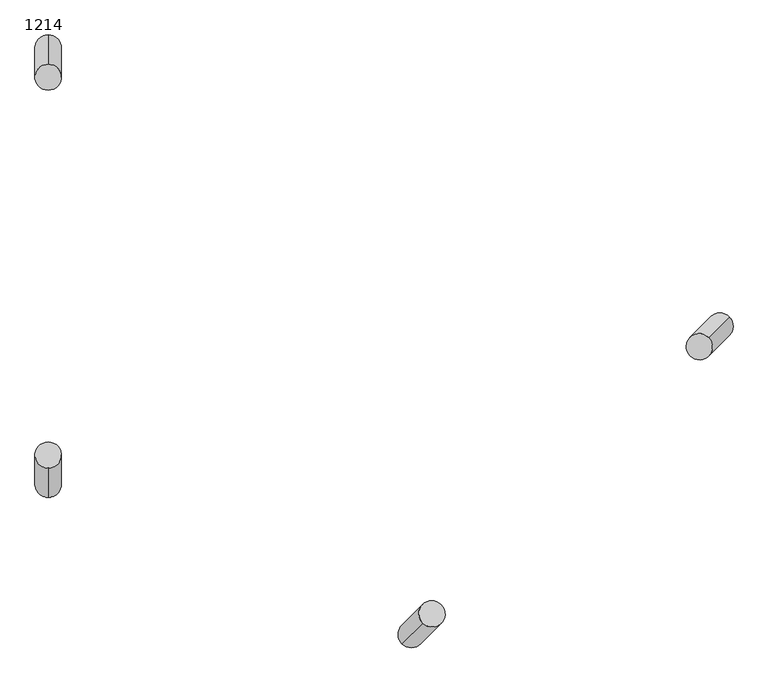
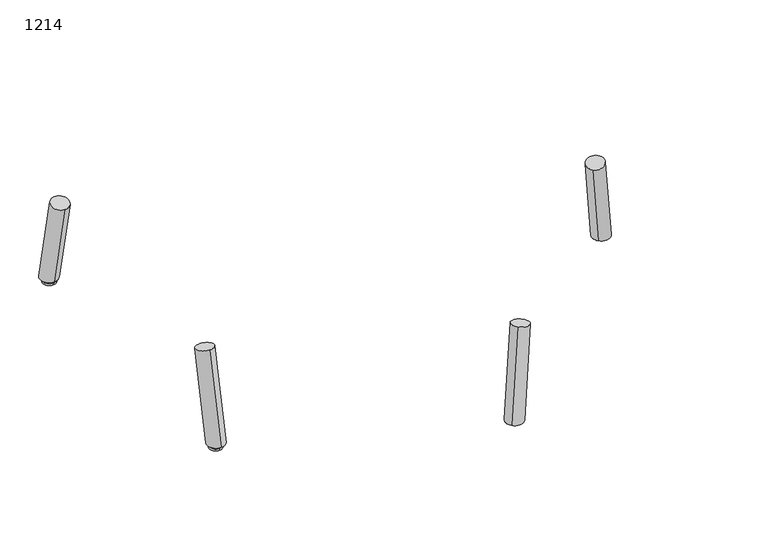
"""IFC4 building model written with IfcOpenShell, lengths in millimetres: furniture geometry, Laguna-Modular-Inside_Curve-ERG : 1214."""

from ifc_helpers import new_model, si_unit, frame, origin, place, context, project, spatial, circle_curve, ellipse_curve, source, transform, mapped, element, save
from ifc_brep_helpers import plane_surface, cylinder_surface, advanced_brep


def furniture_1214_cdc57468(model_context):
    return source(origin(), model_context, "Body", "AdvancedBrep", [
        advanced_brep(
        [(-4769.4056322, 1441.6208563, 10.16), (-4769.4056322, 1433.13476, 10.16), (-4769.4056322, 1437.3778081, 10.16), (-4769.4056322, 1437.3778081, 0.0), (-4769.4056322, 1423.2994547, 0.0), (-4769.4056322, 1451.4561616, 0.0), (-4769.4056322, 1423.2994547, 3.9615026), (-4769.4056322, 1451.4561616, 3.9615026), (-4769.4056322, 1433.13476, 3.9615026), (-4769.4056322, 1441.6208563, 3.9615026)],
        [
            (0, 1, circle_curve(frame((-4769.4056322, 1437.3778081, 10.16), z_axis=(0.0, 0.0, 1.0), x_axis=(0.0, -1.0, 0.0)), 4.2430482)),
            (1, 2),
            (2, 0),
            (1, 0, circle_curve(frame((-4769.4056322, 1437.3778081, 10.16), z_axis=(0.0, 0.0, 1.0), x_axis=(0.0, -1.0, 0.0)), 4.2430482)),
            (3, 4),
            (4, 5, circle_curve(frame((-4769.4056322, 1437.3778081, 0.0), z_axis=(0.0, 0.0, -1.0), x_axis=(0.0, -1.0, 0.0)), 14.0783534)),
            (5, 3),
            (5, 4, circle_curve(frame((-4769.4056322, 1437.3778081, 0.0), z_axis=(0.0, 0.0, -1.0), x_axis=(0.0, -1.0, 0.0)), 14.0783534)),
            (4, 6),
            (6, 7, circle_curve(frame((-4769.4056322, 1437.3778081, 3.9615026), z_axis=(0.0, 0.0, -1.0), x_axis=(0.0, -1.0, 0.0)), 14.0783534)),
            (7, 5),
            (7, 6, circle_curve(frame((-4769.4056322, 1437.3778081, 3.9615026), z_axis=(0.0, 0.0, -1.0), x_axis=(0.0, -1.0, 0.0)), 14.0783534)),
            (6, 8),
            (8, 9, circle_curve(frame((-4769.4056322, 1437.3778081, 3.9615026), z_axis=(0.0, 0.0, -1.0), x_axis=(0.0, -1.0, 0.0)), 4.2430482)),
            (9, 7),
            (9, 8, circle_curve(frame((-4769.4056322, 1437.3778081, 3.9615026), z_axis=(0.0, 0.0, -1.0), x_axis=(0.0, -1.0, 0.0)), 4.2430482)),
            (8, 1),
            (0, 9),
        ],
        [
            plane_surface(frame((-4769.4056322, 1437.3778081, 10.16), z_axis=(0.0, 0.0, 1.0), x_axis=(0.0, -1.0, 0.0))),
            plane_surface(frame((-4769.4056322, 1437.3778081, 0.0), z_axis=(0.0, 0.0, -1.0), x_axis=(0.0, -1.0, 0.0))),
            cylinder_surface(frame((-4769.4056322, 1437.3778081, 10.16), z_axis=(0.0, 0.0, -1.0), x_axis=(0.0, -1.0, 0.0)), 14.0783534),
            plane_surface(frame((-4769.4056322, 1437.3778081, 3.9615026), z_axis=(0.0, 0.0, 1.0), x_axis=(0.0, -1.0, 0.0))),
            cylinder_surface(frame((-4769.4056322, 1437.3778081, 10.16), z_axis=(0.0, 0.0, -1.0), x_axis=(0.0, -1.0, 0.0)), 4.2430482),
        ],
        [
            (0, [[1, 2, 3]]),
            (0, [[4, -3, -2]]),
            (1, [[5, 6, 7]]),
            (1, [[-7, 8, -5]]),
            (2, [[-6, 9, 10, 11]]),
            (2, [[-8, -11, 12, -9]]),
            (3, [[-10, 13, 14, 15]]),
            (3, [[-12, -15, 16, -13]]),
            (4, [[-14, 17, -1, 18]]),
            (4, [[-16, -18, -4, -17]]),
        ],
    ),
        advanced_brep(
        [(-4769.4056322, 814.5485049, 10.16), (-4769.4056322, 818.7915531, 10.16), (-4769.4056322, 810.3054568, 10.16), (-4769.4056322, 800.4701515, 0.0), (-4769.4056322, 828.6268583, 0.0), (-4769.4056322, 814.5485049, 0.0), (-4769.4056322, 800.4701515, 3.9615026), (-4769.4056322, 828.6268583, 3.9615026), (-4769.4056322, 810.3054568, 3.9615026), (-4769.4056322, 818.7915531, 3.9615026)],
        [
            (0, 1),
            (1, 2, circle_curve(frame((-4769.4056322, 814.5485049, 10.16), z_axis=(0.0, 0.0, 1.0), x_axis=(0.0, 1.0, 0.0)), 4.2430482)),
            (2, 0),
            (2, 1, circle_curve(frame((-4769.4056322, 814.5485049, 10.16), z_axis=(0.0, 0.0, 1.0), x_axis=(0.0, 1.0, 0.0)), 4.2430482)),
            (3, 4, circle_curve(frame((-4769.4056322, 814.5485049, 0.0), z_axis=(0.0, 0.0, -1.0), x_axis=(0.0, 1.0, 0.0)), 14.0783534)),
            (4, 5),
            (5, 3),
            (4, 3, circle_curve(frame((-4769.4056322, 814.5485049, 0.0), z_axis=(0.0, 0.0, -1.0), x_axis=(0.0, 1.0, 0.0)), 14.0783534)),
            (6, 7, circle_curve(frame((-4769.4056322, 814.5485049, 3.9615026), z_axis=(0.0, 0.0, -1.0), x_axis=(0.0, 1.0, 0.0)), 14.0783534)),
            (7, 4),
            (3, 6),
            (7, 6, circle_curve(frame((-4769.4056322, 814.5485049, 3.9615026), z_axis=(0.0, 0.0, -1.0), x_axis=(0.0, 1.0, 0.0)), 14.0783534)),
            (8, 9, circle_curve(frame((-4769.4056322, 814.5485049, 3.9615026), z_axis=(0.0, 0.0, -1.0), x_axis=(0.0, 1.0, 0.0)), 4.2430482)),
            (9, 7),
            (6, 8),
            (9, 8, circle_curve(frame((-4769.4056322, 814.5485049, 3.9615026), z_axis=(0.0, 0.0, -1.0), x_axis=(0.0, 1.0, 0.0)), 4.2430482)),
            (1, 9),
            (8, 2),
        ],
        [
            plane_surface(frame((-4769.4056322, 814.5485049, 10.16), z_axis=(0.0, 0.0, 1.0), x_axis=(0.0, 1.0, 0.0))),
            plane_surface(frame((-4769.4056322, 814.5485049, 0.0), z_axis=(0.0, 0.0, -1.0), x_axis=(0.0, 1.0, 0.0))),
            cylinder_surface(frame((-4769.4056322, 814.5485049, 10.16), z_axis=(0.0, 0.0, 1.0), x_axis=(0.0, 1.0, 0.0)), 14.0783534),
            plane_surface(frame((-4769.4056322, 814.5485049, 3.9615026), z_axis=(0.0, 0.0, 1.0), x_axis=(0.0, 1.0, 0.0))),
            cylinder_surface(frame((-4769.4056322, 814.5485049, 10.16), z_axis=(0.0, 0.0, 1.0), x_axis=(0.0, 1.0, 0.0)), 4.2430482),
        ],
        [
            (0, [[1, 2, 3]]),
            (0, [[-3, 4, -1]]),
            (1, [[5, 6, 7]]),
            (1, [[8, -7, -6]]),
            (2, [[9, 10, -5, 11]]),
            (2, [[12, -11, -8, -10]]),
            (3, [[13, 14, -9, 15]]),
            (3, [[16, -15, -12, -14]]),
            (4, [[-2, 17, -13, 18]]),
            (4, [[-4, -18, -16, -17]]),
        ],
    ),
        advanced_brep(
        [(-4769.4056322, 1415.8454177, 207.1767944), (-4769.4056322, 1378.584843, 199.2232056), (-4769.4056322, 1457.9003393, 10.16), (-4769.4056322, 1418.942003, 10.16)],
        [
            (0, 1, circle_curve(frame((-4769.4056322, 1397.2151303, 203.2), z_axis=(0.0, -0.20875560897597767, 0.977967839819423), x_axis=(0.0, -0.977967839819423, -0.20875560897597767)), 19.05)),
            (1, 0, circle_curve(frame((-4769.4056322, 1397.2151303, 203.2), z_axis=(0.0, -0.20875560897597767, 0.977967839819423), x_axis=(0.0, -0.977967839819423, -0.20875560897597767)), 19.05)),
            (0, 2),
            (2, 3, ellipse_curve(frame((-4769.4056322, 1438.4211712, 10.16), z_axis=(0.0, 0.0, 1.0), x_axis=(0.0, -1.0, 0.0)), 19.4791682, 19.05)),
            (3, 1),
            (3, 2, ellipse_curve(frame((-4769.4056322, 1438.4211712, 10.16), z_axis=(0.0, 0.0, 1.0), x_axis=(0.0, -1.0, 0.0)), 19.4791682, 19.05)),
        ],
        [
            plane_surface(frame((-4769.4056322, 1397.2151303, 203.2), z_axis=(0.0, -0.20875560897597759, 0.977967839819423), x_axis=(-1.0, 0.0, 0.0))),
            cylinder_surface(frame((-4769.4056322, 1397.2151303, 203.2), z_axis=(0.0, -0.20875560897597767, 0.977967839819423), x_axis=(0.0, -0.977967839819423, -0.20875560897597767)), 19.05),
            plane_surface(frame((-3404.1553779, 1460.7151303, 10.16), z_axis=(0.0, 0.0, -1.0), x_axis=(-1.0, 0.0, 0.0))),
        ],
        [
            (0, [[1, 2]]),
            (1, [[-1, 3, 4, 5]]),
            (1, [[-2, -5, 6, -3]]),
            (2, [[-4, -6]]),
        ],
    ),
        advanced_brep(
        [(-4769.4056322, 873.8900017, 199.2232056), (-4769.4056322, 836.629427, 207.1767944), (-4769.4056322, 833.5328417, 10.16), (-4769.4056322, 794.5745054, 10.16)],
        [
            (0, 1, circle_curve(frame((-4769.4056322, 855.2597144, 203.2), z_axis=(0.0, 0.20875560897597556, 0.9779678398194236), x_axis=(0.0, -0.9779678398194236, 0.20875560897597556)), 19.05)),
            (1, 0, circle_curve(frame((-4769.4056322, 855.2597144, 203.2), z_axis=(0.0, 0.20875560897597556, 0.9779678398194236), x_axis=(0.0, -0.9779678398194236, 0.20875560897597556)), 19.05)),
            (0, 2),
            (2, 3, ellipse_curve(frame((-4769.4056322, 814.0536735, 10.16), z_axis=(0.0, 0.0, 1.0), x_axis=(0.0, 0.9999999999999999, 0.0)), 19.4791682, 19.05)),
            (3, 1),
            (3, 2, ellipse_curve(frame((-4769.4056322, 814.0536735, 10.16), z_axis=(0.0, 0.0, 1.0), x_axis=(0.0, 0.9999999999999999, 0.0)), 19.4791682, 19.05)),
        ],
        [
            plane_surface(frame((-4769.4056322, 855.2597144, 203.2), z_axis=(0.0, 0.2087556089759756, 0.9779678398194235), x_axis=(-1.0, 0.0, 0.0))),
            cylinder_surface(frame((-4769.4056322, 855.2597144, 203.2), z_axis=(0.0, 0.20875560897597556, 0.9779678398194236), x_axis=(0.0, -0.9779678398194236, 0.20875560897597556)), 19.05),
            plane_surface(frame((-3404.1553779, 1460.7151303, 10.16), z_axis=(0.0, 0.0, -1.0), x_axis=(-1.0, 0.0, 0.0))),
        ],
        [
            (0, [[1, 2]]),
            (1, [[-1, 3, 4, 5]]),
            (1, [[-2, -5, 6, -3]]),
            (2, [[-4, -6]]),
        ],
    ),
        advanced_brep(
        [(-3823.0856257, 1023.8668366, 207.1767944), (-3849.4328307, 997.5196316, 199.2232056), (-3793.3483054, 1053.6041569, 10.16), (-3820.8960092, 1026.0564531, 10.16)],
        [
            (0, 1, circle_curve(frame((-3836.2592282, 1010.6932341, 203.2), z_axis=(-0.1476125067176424, -0.14761250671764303, 0.9779678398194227), x_axis=(-0.691527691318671, -0.6915276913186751, -0.20875560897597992)), 19.05)),
            (1, 0, circle_curve(frame((-3836.2592282, 1010.6932341, 203.2), z_axis=(-0.1476125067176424, -0.14761250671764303, 0.9779678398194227), x_axis=(-0.691527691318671, -0.6915276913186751, -0.20875560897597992)), 19.05)),
            (0, 2),
            (2, 3, ellipse_curve(frame((-3807.1221573, 1039.830305, 10.16), z_axis=(0.0, 0.0, 1.0), x_axis=(-0.707106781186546, -0.7071067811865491, 0.0)), 19.4791682, 19.05)),
            (3, 1),
            (3, 2, ellipse_curve(frame((-3807.1221573, 1039.830305, 10.16), z_axis=(0.0, 0.0, 1.0), x_axis=(-0.707106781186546, -0.7071067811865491, 0.0)), 19.4791682, 19.05)),
        ],
        [
            plane_surface(frame((-3836.2592282, 1010.6932341, 203.2), z_axis=(-0.14761250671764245, -0.1476125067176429, 0.9779678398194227), x_axis=(-0.7071067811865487, 0.7071067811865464, 0.0))),
            cylinder_surface(frame((-3836.2592282, 1010.6932341, 203.2), z_axis=(-0.1476125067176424, -0.14761250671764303, 0.9779678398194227), x_axis=(-0.691527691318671, -0.6915276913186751, -0.20875560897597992)), 19.05),
            plane_surface(frame((-3404.1553779, 1460.7151303, 10.16), z_axis=(0.0, 0.0, -1.0), x_axis=(-1.0, 0.0, 0.0))),
        ],
        [
            (0, [[1, 2]]),
            (1, [[-1, 3, 4, 5]]),
            (1, [[-2, -5, 6, -3]]),
            (2, [[-4, -6]]),
        ],
    ),
        advanced_brep(
        [(-4206.3059754, 640.6464869, 199.2232056), (-4232.6531805, 614.2992819, 207.1767944), (-4234.842797, 612.1096654, 10.16), (-4262.3905008, 584.5619616, 10.16)],
        [
            (0, 1, circle_curve(frame((-4219.479578, 627.4728844, 203.2), z_axis=(0.1476125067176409, 0.14761250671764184, 0.9779678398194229), x_axis=(-0.691527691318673, -0.6915276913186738, 0.20875560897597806)), 19.05)),
            (1, 0, circle_curve(frame((-4219.479578, 627.4728844, 203.2), z_axis=(0.1476125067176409, 0.14761250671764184, 0.9779678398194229), x_axis=(-0.691527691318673, -0.6915276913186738, 0.20875560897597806)), 19.05)),
            (0, 2),
            (2, 3, ellipse_curve(frame((-4248.6166489, 598.3358135, 10.16), z_axis=(0.0, 0.0, 1.0), x_axis=(0.7071067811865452, 0.7071067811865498, 0.0)), 19.4791682, 19.05)),
            (3, 1),
            (3, 2, ellipse_curve(frame((-4248.6166489, 598.3358135, 10.16), z_axis=(0.0, 0.0, 1.0), x_axis=(0.7071067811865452, 0.7071067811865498, 0.0)), 19.4791682, 19.05)),
        ],
        [
            plane_surface(frame((-4219.479578, 627.4728844, 203.2), z_axis=(0.14761250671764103, 0.14761250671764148, 0.9779678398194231), x_axis=(-0.7071067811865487, 0.7071067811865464, 0.0))),
            cylinder_surface(frame((-4219.479578, 627.4728844, 203.2), z_axis=(0.14761250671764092, 0.14761250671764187, 0.9779678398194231), x_axis=(-0.691527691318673, -0.6915276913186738, 0.20875560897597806)), 19.05),
            plane_surface(frame((-3404.1553779, 1460.7151303, 10.16), z_axis=(0.0, 0.0, -1.0), x_axis=(-1.0, 0.0, 0.0))),
        ],
        [
            (0, [[1, 2]]),
            (1, [[-1, 3, 4, 5]]),
            (1, [[-2, -5, 6, -3]]),
            (2, [[-4, -6]]),
        ],
    ),
    ])


if __name__ == "__main__":
    model = new_model("IFC4")
    model_context = context("Model", 3, world=origin())
    ifc_project = project(units=[si_unit("LENGTHUNIT", "METRE", prefix="MILLI")], contexts=[model_context])
    site = spatial("IfcSite", under=ifc_project)
    building = spatial("IfcBuilding", under=site)
    placement = place(None, origin())
    furniture_1214_shape = furniture_1214_cdc57468(model_context)
    element("IfcFurniture", 1, ObjectType="Laguna-Modular-Inside_Curve-ERG : 1214", at=placement, inside=building, context=model_context, shape_type="MappedRepresentation", body=[
        mapped(furniture_1214_shape, transform((0.0, 0.0, 0.0), x_axis=(1.0, 0.0, 0.0), y_axis=(0.0, 1.0, 0.0), z_axis=(0.0, 0.0, 1.0))),
    ])
    save(model, "model.ifc")
